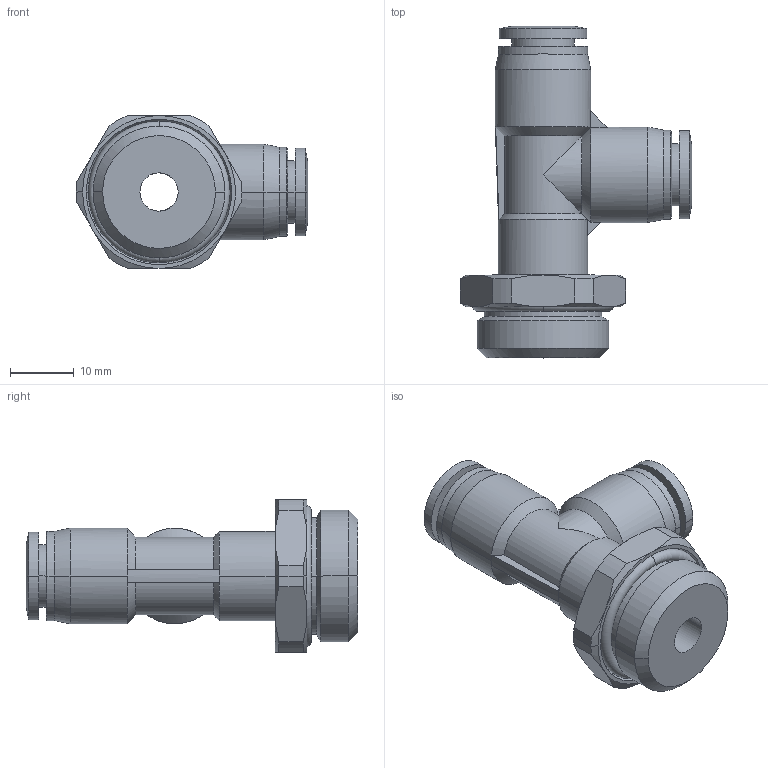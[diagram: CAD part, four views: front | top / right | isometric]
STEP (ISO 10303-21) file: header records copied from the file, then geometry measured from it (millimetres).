
FILE_DESCRIPTION (( 'STEP AP203' ), '1' );
FILE_NAME ('FLT08-04.STEP', '2020-05-12T14:17:16', ( '' ), ( '' ), 'SwSTEP 2.0', 'SolidWorks 2019', '' );
FILE_SCHEMA (( 'CONFIG_CONTROL_DESIGN' ));
Length unit declared in the file: millimetre
Products named in the file (1): FLT08-04
Bounding box: 36.35 x 52.1 x 24 mm (x, y, z)
Surface area: 6795.9 mm2 (no closed solid volume)
Topology: 0 solids, 4 shells, 118 faces, 286 edges, 179 vertices
Faces by surface type: cylinder 44, cone 38, plane 27, bspline 5, torus 4
Entity records: 5805 total; most frequent: CARTESIAN_POINT 3468, ORIENTED_EDGE 556, DIRECTION 291, EDGE_CURVE 286, B_SPLINE_CURVE_WITH_KNOTS 215, VERTEX_POINT 179, EDGE_LOOP 131, ADVANCED_FACE 118
